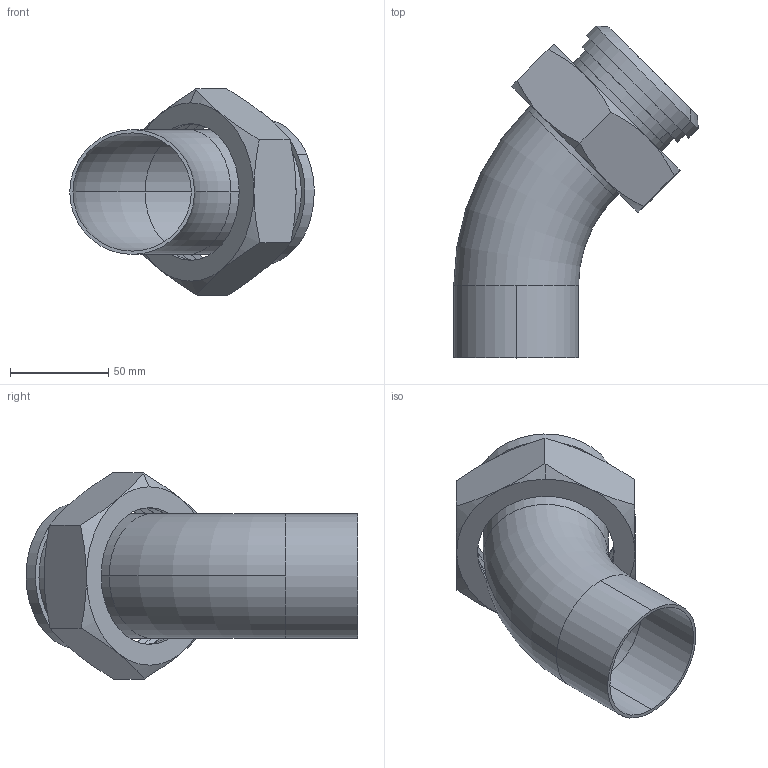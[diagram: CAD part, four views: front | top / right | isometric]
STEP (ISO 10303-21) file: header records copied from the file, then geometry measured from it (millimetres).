
FILE_DESCRIPTION (( 'STEP AP203' ), '1' );
FILE_NAME ('E2KP2.5.STEP', '2018-05-02T16:34:09', ( 'vneprd' ), ( 'Microsoft' ), 'SwSTEP 2.0', 'SolidWorks 2014', '' );
FILE_SCHEMA (( 'CONFIG_CONTROL_DESIGN' ));
Length unit declared in the file: inch
Products named in the file (4): 14PR2.5; E2KP2.5; 13H2.5; E2KS2.5
Assembly tree (3 placements, depth 2):
  E2KP2.5
    E2KS2.5
    14PR2.5
    13H2.5
Bounding box: 124.44 x 168.9 x 104.85 mm (x, y, z)
Volume: 139394.2 mm3; surface area: 94635.1 mm2
Topology: 3 solids, 3 shells, 67 faces, 153 edges, 95 vertices
Faces by surface type: cylinder 28, plane 16, cone 16, torus 4, bspline 3
Entity records: 3430 total; most frequent: CARTESIAN_POINT 1558, DIRECTION 311, ORIENTED_EDGE 306, EDGE_CURVE 153, AXIS2_PLACEMENT_3D 134, VERTEX_POINT 95, EDGE_LOOP 76, FACE_OUTER_BOUND 67
